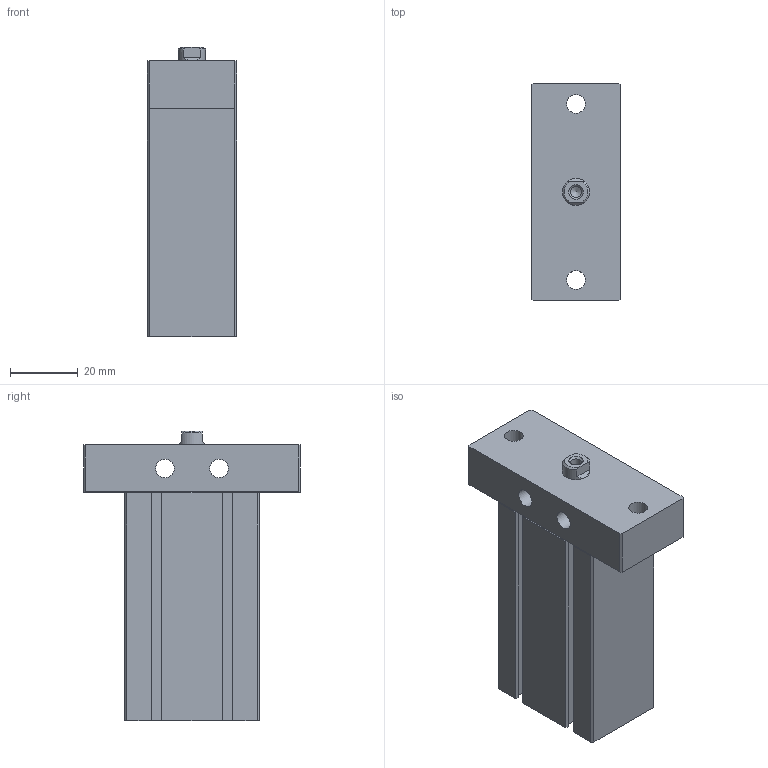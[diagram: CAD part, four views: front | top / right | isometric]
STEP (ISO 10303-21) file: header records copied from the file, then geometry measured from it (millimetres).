
FILE_DESCRIPTION((''),'2;1');
FILE_NAME('J:\3D電子目錄\氣缸\ND\ND\ND20-F\ND20x40-F.stp','2008-03-12T14:06:09',('66-2f-008'),(''),'Autodesk Inventor 11','Autodesk Inventor 11','');
FILE_SCHEMA(('AUTOMOTIVE_DESIGN { 1 0 10303 214 1 1 1 1 }'));
Length unit declared in the file: millimetre
Products named in the file (1): ND20-F
Bounding box: 26.4 x 64 x 85.5 mm (x, y, z)
Volume: 85258 mm3; surface area: 20879.6 mm2
Topology: 2 solids, 2 shells, 112 faces, 300 edges, 193 vertices
Faces by surface type: plane 75, bspline 16, cylinder 12, cone 8, torus 1
Full cylindrical faces by diameter (mm): 1.5 x2, 5.5 x2, 13 x1, 21 x1
Entity records: 3478 total; most frequent: CARTESIAN_POINT 793, ORIENTED_EDGE 538, DIRECTION 514, EDGE_CURVE 269, VECTOR 210, LINE 210, VERTEX_POINT 187, EDGE_LOOP 154
